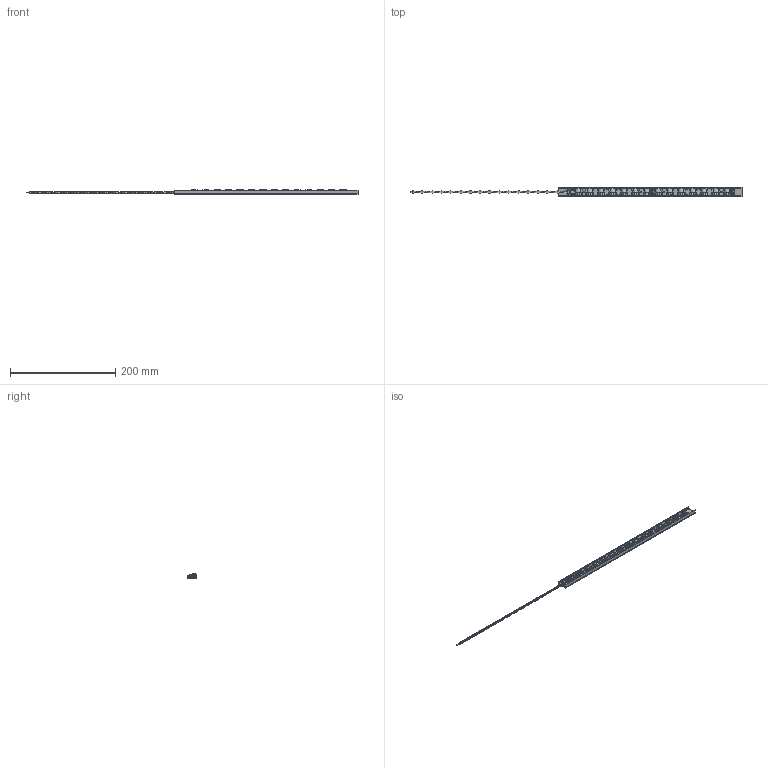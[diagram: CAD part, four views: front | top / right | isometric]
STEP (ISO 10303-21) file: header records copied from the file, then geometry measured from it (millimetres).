
FILE_DESCRIPTION (( 'STEP AP203' ), '1' );
FILE_NAME ('L09_1 ft_ASYM.STEP', '2020-05-15T18:06:13', ( '' ), ( '' ), 'SwSTEP 2.0', 'SolidWorks 2017', '' );
FILE_SCHEMA (( 'CONFIG_CONTROL_DESIGN' ));
Length unit declared in the file: millimetre
Products named in the file (13): AVX-11-9159-002-101-916_11-9159-002-101-X16_With wires; REF-000074-02; CON-000198-00; ACB-000214-00; CON-000199-00; L09_1 ft_ASYM; AVX-60-9159-3302-0X-000_60-9159-3302-0X-000; OPC-000139-00; AVX-60-9159-3402-0X-000_60-9159-3402-0X-000; PCB-000101_102-00_PCB-000102-00; HSG-000251-00_349.8; ASY-006401-02; CLP-000046-00
Assembly tree (23 placements, depth 3):
  L09_1 ft_ASYM
    PCB-000101_102-00_PCB-000102-00  x2
    CLP-000046-00
    CON-000199-00  x2
    CON-000198-00  x3
    HSG-000251-00_349.8
    ASY-006401-02  x2
      REF-000074-02
      OPC-000139-00
    ACB-000214-00
      AVX-11-9159-002-101-916_11-9159-002-101-X16_With wires
      AVX-60-9159-3302-0X-000_60-9159-3302-0X-000
      AVX-60-9159-3402-0X-000_60-9159-3402-0X-000
Bounding box: 631.38 x 18.5 x 9.07 mm (x, y, z)
Volume: 29387.1 mm3; surface area: 54688.8 mm2
Topology: 29 solids, 33 shells, 2750 faces, 7203 edges, 4552 vertices
Faces by surface type: bspline 1213, plane 1168, cylinder 344, cone 24, torus 1
Entity records: 117983 total; most frequent: CARTESIAN_POINT 88599, ORIENTED_EDGE 6572, DIRECTION 4388, EDGE_CURVE 3286, VERTEX_POINT 2097, VECTOR 1874, LINE 1874, EDGE_LOOP 1317
